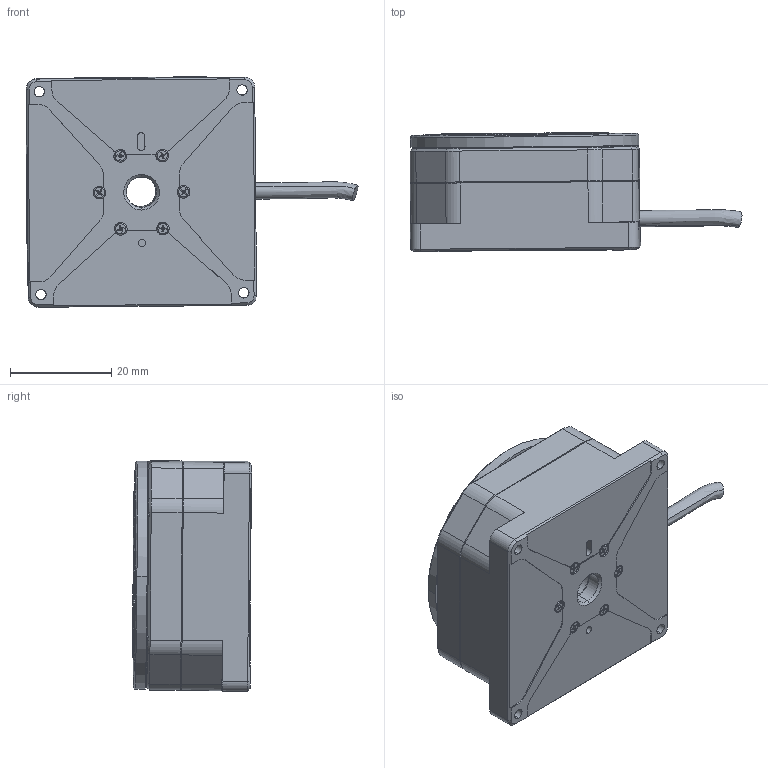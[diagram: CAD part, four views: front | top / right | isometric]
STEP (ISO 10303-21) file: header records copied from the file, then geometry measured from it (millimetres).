
FILE_DESCRIPTION (( 'STEP AP214' ), '1' );
FILE_NAME ('100302_Ver 0_GO_Stage_RS454523-Rendering.STEP', '2025-03-11T11:26:54', ( '' ), ( '' ), 'SwSTEP 2.0', 'SolidWorks 2021', '' );
FILE_SCHEMA (( 'AUTOMOTIVE_DESIGN' ));
Length unit declared in the file: millimetre
Products named in the file (11): PACK-SMIB1.6-5; 100311_Ver 0_Rot_Mot_Assy_3216_6 leg; PACK-SMIB2_0-8; Cable_1; 100302_Ver 0_GO_Stage_RS454523-Rendering; 100315_Ver 0_RS454523_Bearing_Holder; 100316_Ver 0_Cable_Clamp_RS454523; 100305_Ver 0_Motor_Preload_Screw; 100303_Ver 0_RS454523_Top; PACK-SMIB2_0-5; 100266_Ver 0_Bot_RS454523
Assembly tree (27 placements, depth 3):
  100302_Ver 0_GO_Stage_RS454523-Rendering
    100266_Ver 0_Bot_RS454523
    100303_Ver 0_RS454523_Top
    100315_Ver 0_RS454523_Bearing_Holder
    100311_Ver 0_Rot_Mot_Assy_3216_6 leg
      100305_Ver 0_Motor_Preload_Screw
    PACK-SMIB2_0-5  x6
    PACK-SMIB2_0-8  x8
    Cable_1
    100316_Ver 0_Cable_Clamp_RS454523
    PACK-SMIB1.6-5  x6
Bounding box: 65.46 x 23.65 x 45.45 mm (x, y, z)
Volume: 19597.5 mm3; surface area: 18810.6 mm2
Topology: 26 solids, 26 shells, 1497 faces, 3780 edges, 2341 vertices
Faces by surface type: cylinder 503, plane 499, cone 302, torus 152, bspline 41
Entity records: 27643 total; most frequent: CARTESIAN_POINT 6382, DIRECTION 4188, ORIENTED_EDGE 3892, EDGE_CURVE 1946, AXIS2_PLACEMENT_3D 1638, VERTEX_POINT 1246, LINE 912, VECTOR 912
